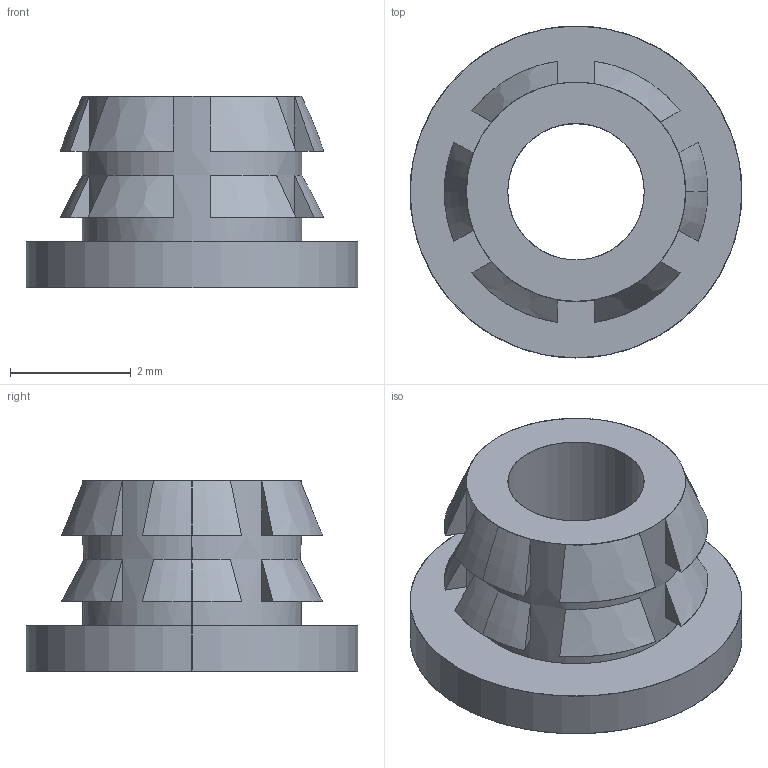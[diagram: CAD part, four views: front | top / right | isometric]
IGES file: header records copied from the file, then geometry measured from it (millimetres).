
Start section: SolidWorks IGES file using analytic representation for surfaces
Global section: file name: G:\thermofab project\INSERT\insert project\INSERT 3D\flanged insert 4-40  S2.IGS; native system: SolidWorks 2015; preprocessor: SolidWorks 2015; author: Administrator; date: 170809.183717; units: millimetre
Bounding box: 5.5 x 5.5 x 3.17 mm (x, y, z)
Surface area: 114.5 mm2 (no closed solid volume)
Topology: 0 solids, 0 shells, 63 faces, 544 edges, 544 vertices
Faces by surface type: bspline 55, revolution 8
